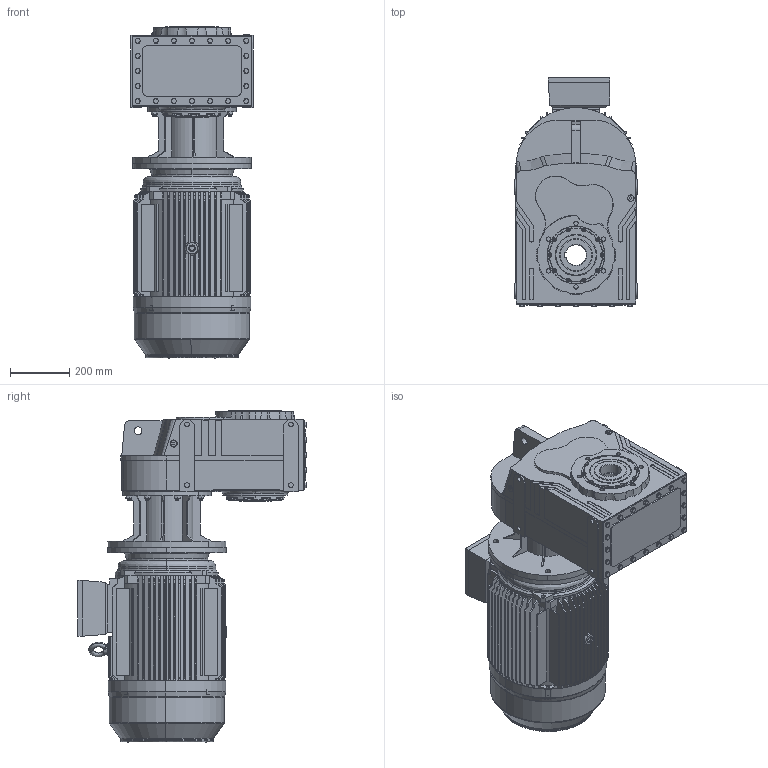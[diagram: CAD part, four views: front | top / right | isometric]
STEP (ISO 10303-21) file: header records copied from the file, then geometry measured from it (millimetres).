
FILE_DESCRIPTION (( 'STEP AP203' ), '1' );
FILE_NAME ('DV672-DV673-M3-200L.STEP', '2019-07-23T09:21:03', ( '' ), ( '' ), 'SwSTEP 2.0', 'SolidWorks 2012', '' );
FILE_SCHEMA (( 'CONFIG_CONTROL_DESIGN' ));
Products named in the file (15): DV672-DV673-M3-200L; 200-4B5; ﾍﾟYE3-200L-4.6.8C+ﾎA+ｳ_-ｼ+､; Y2-200-4.6.8¦¾Íß¦ð-Ô©Ã_-¼+¤; Plain parallel keys_GB_CONNECTING_PIECE_KEYS_CSK 16X100; Y2-200-2.4.6.8ｦｾﾂ-ｩﾃ_-ｼ+､; Y2-200-4.6.8Ã¦Íß¦ð-Ô©Ã_-¼+¤; Y2-200+ｷﾎｨB5_-ｼ+､; Eyebolts GB_GB_FASTENER_SCREWS_FRS M16-N; Y2-200-4.6.8-ｦﾈﾁﾂ-ｩﾃ_-ｼ+､; MN2-200ﾀiﾍ_-ｼ+､; DN_67_3_0_A-B20_B5_ML60A_0_0_0_0_0_0_0_0_0_0_0_0_M1; ML60A_Varsayìlan; D673_Varsayìlan; 53200B5_Varsayìlan
Assembly tree (14 placements, depth 3):
  DV672-DV673-M3-200L
    DN_67_3_0_A-B20_B5_ML60A_0_0_0_0_0_0_0_0_0_0_0_0_M1
      D673_Varsayìlan
      53200B5_Varsayìlan
      ML60A_Varsayìlan
    200-4B5
      Y2-200-4.6.8-ｦﾈﾁﾂ-ｩﾃ_-ｼ+､
      MN2-200ﾀiﾍ_-ｼ+､
      Eyebolts GB_GB_FASTENER_SCREWS_FRS M16-N
      Y2-200+ｷﾎｨB5_-ｼ+､
      Y2-200-4.6.8Ã¦Íß¦ð-Ô©Ã_-¼+¤
      ﾍﾟYE3-200L-4.6.8C+ﾎA+ｳ_-ｼ+､
      Y2-200-2.4.6.8ｦｾﾂ-ｩﾃ_-ｼ+､
      Y2-200-4.6.8¦¾Íß¦ð-Ô©Ã_-¼+¤
      Plain parallel keys_GB_CONNECTING_PIECE_KEYS_CSK 16X100
Bounding box: 412 x 771.41 x 1119.7 mm (x, y, z)
Volume: 77985036.4 mm3; surface area: 5883476.4 mm2
Topology: 16 solids, 16 shells, 2740 faces, 7095 edges, 4515 vertices
Faces by surface type: plane 1165, cylinder 812, cone 637, bspline 122, torus 4
Entity records: 96075 total; most frequent: CARTESIAN_POINT 28745, ORIENTED_EDGE 14038, DIRECTION 13466, EDGE_CURVE 7019, AXIS2_PLACEMENT_3D 5142, VERTEX_POINT 4497, VECTOR 3182, LINE 3182
